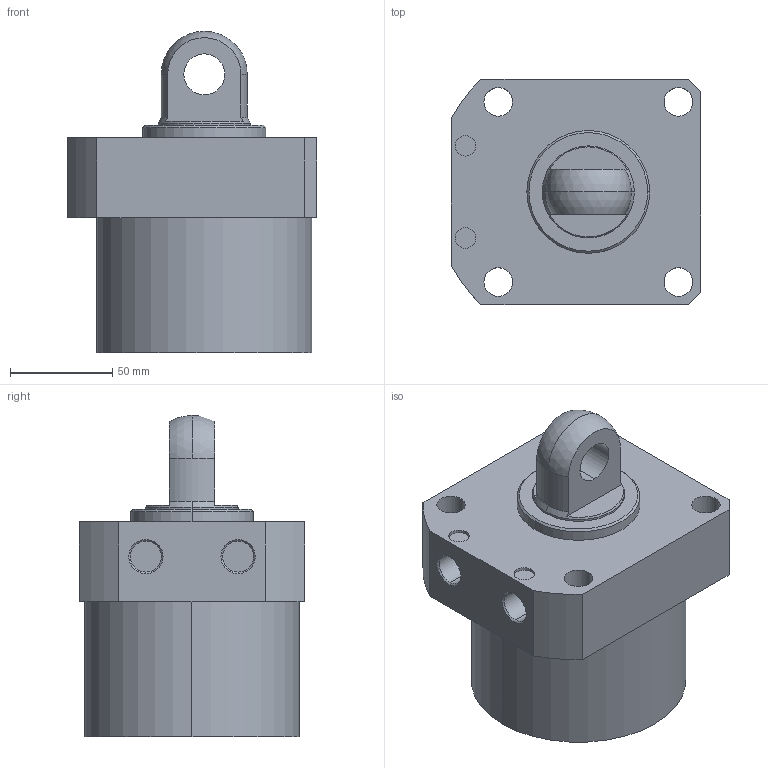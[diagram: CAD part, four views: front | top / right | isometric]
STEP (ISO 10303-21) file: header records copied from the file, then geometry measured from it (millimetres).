
FILE_DESCRIPTION (( 'STEP AP203' ), '1' );
FILE_NAME ('CLLR-105CP-045.STEP', '2019-12-19T02:05:49', ( '' ), ( '' ), 'SwSTEP 2.0', 'SolidWorks 2015', '' );
FILE_SCHEMA (( 'CONFIG_CONTROL_DESIGN' ));
Length unit declared in the file: millimetre
Products named in the file (1): CLLR-105CP-045
Bounding box: 122 x 110 x 157 mm (x, y, z)
Volume: 1097696.7 mm3; surface area: 79450.2 mm2
Topology: 1 solids, 1 shells, 57 faces, 135 edges, 87 vertices
Faces by surface type: cylinder 29, plane 18, cone 8, sphere 2
Entity records: 1770 total; most frequent: DIRECTION 319, CARTESIAN_POINT 292, ORIENTED_EDGE 270, EDGE_CURVE 135, AXIS2_PLACEMENT_3D 130, VERTEX_POINT 87, EDGE_LOOP 74, CIRCLE 72
